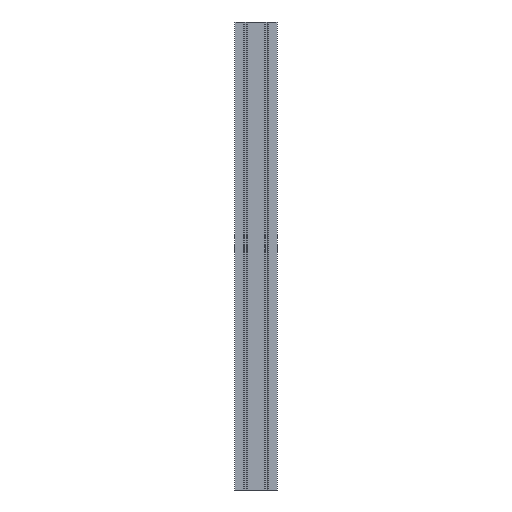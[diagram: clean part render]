
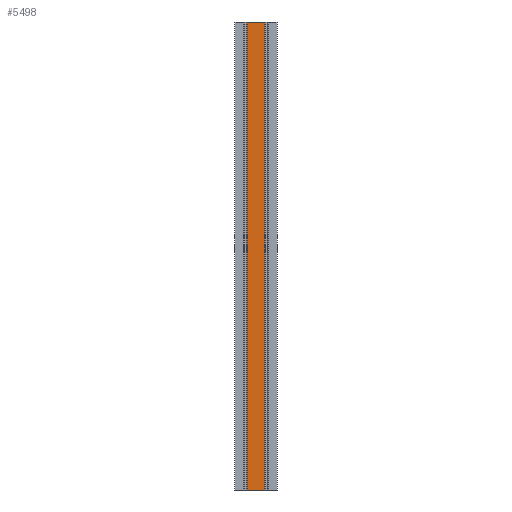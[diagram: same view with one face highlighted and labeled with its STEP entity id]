
A CAD part, front view. The second image highlights one B-rep face of the part: STEP entity #5498.
In plain terms, the highlighted planar face has unit normal (0, -1, 0).
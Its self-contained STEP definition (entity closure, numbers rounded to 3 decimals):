
#204 = CARTESIAN_POINT ( 'NONE',  ( -18.3, -45., 500. ) ) ;
#217 = LINE ( 'NONE', #4157, #3195 ) ;
#535 = EDGE_CURVE ( 'NONE', #12174, #1773, #7604, .T. ) ;
#704 = EDGE_CURVE ( 'NONE', #5448, #11775, #217, .T. ) ;
#1141 = ORIENTED_EDGE ( 'NONE', *, *, #535, .T. ) ;
#1773 = VERTEX_POINT ( 'NONE', #3030 ) ;
#2371 = DIRECTION ( 'NONE',  ( 1., 0., 0. ) ) ;
#2588 = ORIENTED_EDGE ( 'NONE', *, *, #9519, .T. ) ;
#2777 = VECTOR ( 'NONE', #9662, 1000. ) ;
#3030 = CARTESIAN_POINT ( 'NONE',  ( 18.3, -45., 500. ) ) ;
#3195 = VECTOR ( 'NONE', #3325, 1000. ) ;
#3325 = DIRECTION ( 'NONE',  ( 0., 0., 1. ) ) ;
#3530 = AXIS2_PLACEMENT_3D ( 'NONE', #11206, #12420, #11389 ) ;
#4157 = CARTESIAN_POINT ( 'NONE',  ( -18.3, -45., -500. ) ) ;
#5421 = EDGE_CURVE ( 'NONE', #11775, #1773, #10939, .T. ) ;
#5448 = VERTEX_POINT ( 'NONE', #10241 ) ;
#5488 = CARTESIAN_POINT ( 'NONE',  ( 18.3, -45., -500. ) ) ;
#5498 = ADVANCED_FACE ( 'NONE', ( #6420 ), #6552, .T. ) ;
#5797 = LINE ( 'NONE', #6778, #12451 ) ;
#5943 = ORIENTED_EDGE ( 'NONE', *, *, #704, .F. ) ;
#6420 = FACE_OUTER_BOUND ( 'NONE', #8846, .T. ) ;
#6552 = PLANE ( 'NONE',  #3530 ) ;
#6704 = CARTESIAN_POINT ( 'NONE',  ( 18.3, -45., -500. ) ) ;
#6778 = CARTESIAN_POINT ( 'NONE',  ( -45., -45., -500. ) ) ;
#7530 = CARTESIAN_POINT ( 'NONE',  ( -45., -45., 500. ) ) ;
#7604 = LINE ( 'NONE', #6704, #2777 ) ;
#8061 = VECTOR ( 'NONE', #2371, 1000. ) ;
#8846 = EDGE_LOOP ( 'NONE', ( #10904, #5943, #2588, #1141 ) ) ;
#9519 = EDGE_CURVE ( 'NONE', #5448, #12174, #5797, .T. ) ;
#9662 = DIRECTION ( 'NONE',  ( 0., 0., 1. ) ) ;
#10241 = CARTESIAN_POINT ( 'NONE',  ( -18.3, -45., -500. ) ) ;
#10904 = ORIENTED_EDGE ( 'NONE', *, *, #5421, .F. ) ;
#10939 = LINE ( 'NONE', #7530, #8061 ) ;
#11206 = CARTESIAN_POINT ( 'NONE',  ( -45., -45., -500. ) ) ;
#11389 = DIRECTION ( 'NONE',  ( 0., 0., -1. ) ) ;
#11775 = VERTEX_POINT ( 'NONE', #204 ) ;
#12174 = VERTEX_POINT ( 'NONE', #5488 ) ;
#12420 = DIRECTION ( 'NONE',  ( 0., -1., 0. ) ) ;
#12451 = VECTOR ( 'NONE', #12462, 1000. ) ;
#12462 = DIRECTION ( 'NONE',  ( 1., 0., 0. ) ) ;
